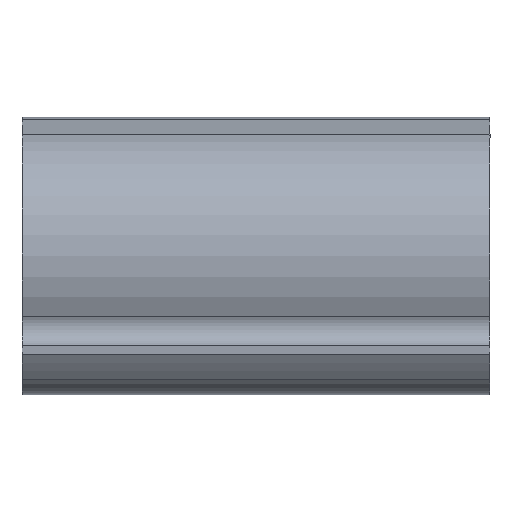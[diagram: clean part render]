
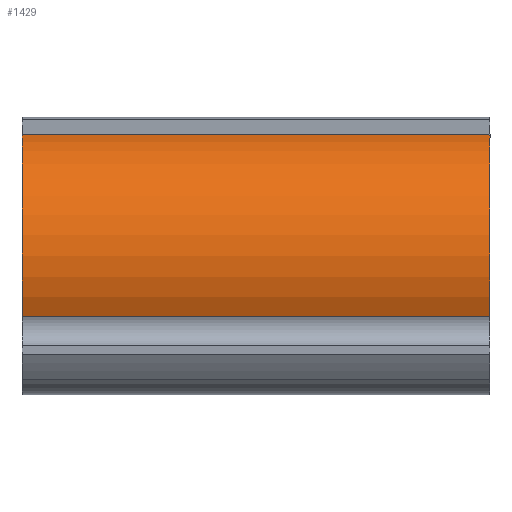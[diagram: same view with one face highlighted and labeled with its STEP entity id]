
A CAD part, front view. The second image highlights one B-rep face of the part: STEP entity #1429.
In plain terms, the highlighted cylindrical face has radius 19.844 mm (diameter 39.688 mm), a partial arc.
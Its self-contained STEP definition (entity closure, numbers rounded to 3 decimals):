
#41=LINE('',#2333,#134);
#46=LINE('',#2341,#139);
#134=VECTOR('',#1822,10.);
#139=VECTOR('',#1833,10.);
#220=CYLINDRICAL_SURFACE('',#1554,19.844);
#300=FACE_OUTER_BOUND('',#387,.T.);
#387=EDGE_LOOP('',(#1033,#1034,#1035,#1036));
#465=CIRCLE('',#1532,19.844);
#479=CIRCLE('',#1547,19.844);
#595=VERTEX_POINT('',#2287);
#596=VERTEX_POINT('',#2289);
#613=VERTEX_POINT('',#2324);
#614=VERTEX_POINT('',#2326);
#749=EDGE_CURVE('',#595,#596,#465,.T.);
#767=EDGE_CURVE('',#614,#613,#479,.T.);
#771=EDGE_CURVE('',#614,#595,#41,.T.);
#776=EDGE_CURVE('',#596,#613,#46,.T.);
#1033=ORIENTED_EDGE('',*,*,#776,.F.);
#1034=ORIENTED_EDGE('',*,*,#749,.F.);
#1035=ORIENTED_EDGE('',*,*,#771,.F.);
#1036=ORIENTED_EDGE('',*,*,#767,.T.);
#1429=ADVANCED_FACE('',(#300),#220,.T.);
#1532=AXIS2_PLACEMENT_3D('',#2290,#1779,#1780);
#1547=AXIS2_PLACEMENT_3D('',#2327,#1813,#1814);
#1554=AXIS2_PLACEMENT_3D('',#2343,#1836,#1837);
#1779=DIRECTION('center_axis',(1.,0.,0.));
#1780=DIRECTION('ref_axis',(0.,-0.5,0.866));
#1813=DIRECTION('center_axis',(1.,0.,0.));
#1814=DIRECTION('ref_axis',(0.,-0.5,0.866));
#1822=DIRECTION('',(1.,0.,0.));
#1833=DIRECTION('',(-1.,0.,0.));
#1836=DIRECTION('center_axis',(1.,0.,0.));
#1837=DIRECTION('ref_axis',(0.,-0.5,0.866));
#2287=CARTESIAN_POINT('',(71.438,-4.923,19.223));
#2289=CARTESIAN_POINT('',(71.438,-17.901,-8.563));
#2290=CARTESIAN_POINT('Origin',(71.438,0.,0.));
#2324=CARTESIAN_POINT('',(0.,-17.901,-8.563));
#2326=CARTESIAN_POINT('',(0.,-4.923,19.223));
#2327=CARTESIAN_POINT('Origin',(0.,0.,0.));
#2333=CARTESIAN_POINT('',(0.,-4.923,19.223));
#2341=CARTESIAN_POINT('',(0.,-17.901,-8.563));
#2343=CARTESIAN_POINT('Origin',(0.,0.,0.));
